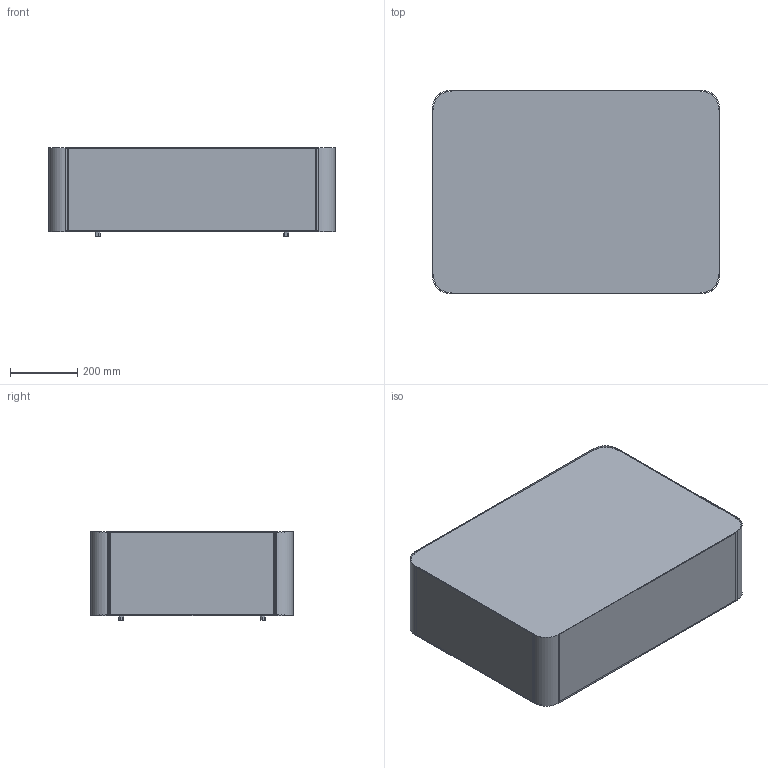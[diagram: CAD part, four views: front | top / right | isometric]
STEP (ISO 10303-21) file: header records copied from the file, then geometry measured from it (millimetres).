
FILE_DESCRIPTION(('Creo Elements/Direct Modeling STEP Export'),'2;1');
FILE_NAME('EMIL LED DIREKT 850.stp','2016-04-05T13:14:59',(''),(''),'Creo Elements/Direct Modeling STEP processor for AP214 (Solid Model)','Creo Elements/Direct Modeling 18.1A 09-Jun-2012 (C) Parametric Technology GmbH','');
FILE_SCHEMA(('AUTOMOTIVE_DESIGN { 1 0 10303 214 1 1 1 1 }'));
Length unit declared in the file: millimetre
Products named in the file (2): EMIL_LED_DIREKT; EMIL_LED_DIREKT_600_850_4000_UM_OM_H
Assembly tree (1 placements, depth 2):
  EMIL_LED_DIREKT_600_850_4000_UM_OM_H
    EMIL_LED_DIREKT
Bounding box: 851 x 601 x 262.8 mm (x, y, z)
Volume: 123863523.5 mm3; surface area: 1922339.2 mm2
Topology: 1 solids, 1 shells, 68 faces, 192 edges, 128 vertices
Faces by surface type: plane 40, cylinder 28
Entity records: 2273 total; most frequent: CARTESIAN_POINT 390, DIRECTION 388, ORIENTED_EDGE 384, EDGE_CURVE 192, VECTOR 136, LINE 136, VERTEX_POINT 128, AXIS2_PLACEMENT_3D 126
